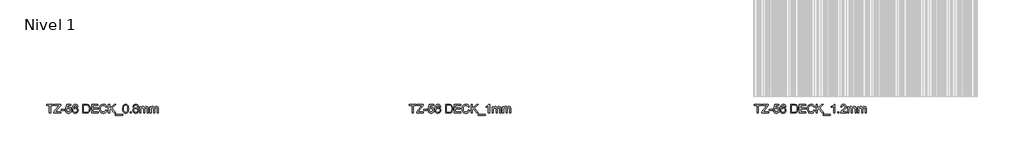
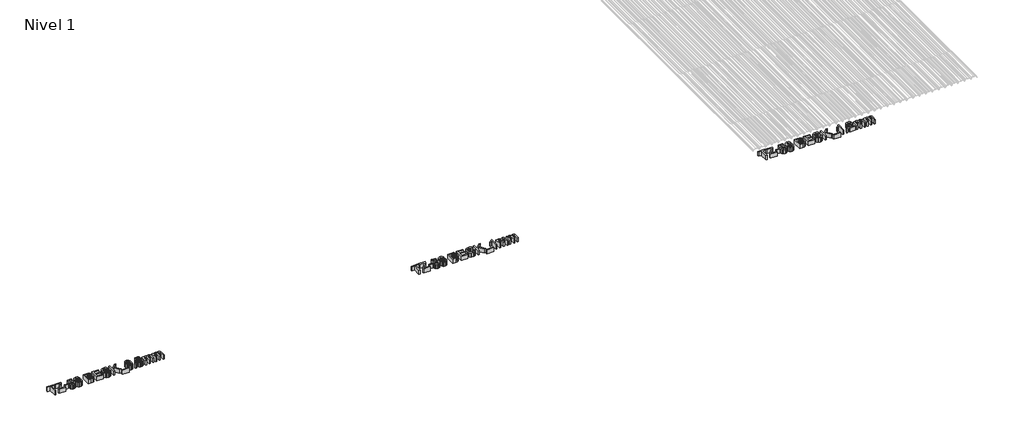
# One storey, part 2 of 2: 3 proxies.
"""IFC4 building model written with IfcOpenShell, lengths in millimetres."""

from ifc_helpers import new_model, si_unit, origin, origin_with_axes, place, context, project, spatial, polyline, outline, extrude, element, save

model = new_model("IFC4")

# Units and contexts
model_context = context("Model", 3, world=origin())
ifc_project = project(units=[si_unit("LENGTHUNIT", "METRE", prefix="MILLI")], contexts=[model_context])

# Site, building, storey
site = spatial("IfcSite", under=ifc_project)
building = spatial("IfcBuilding", under=site)
storey = spatial("IfcBuildingStorey", under=building, Name="Nivel 1", Elevation=0.0)

# Proxies
placement = place(None, origin())
element("IfcBuildingElementProxy", 1, Name="Texto de modelo 1", ObjectType="Texto de modelo 1", at=placement, inside=storey, context=model_context, shape_type="SweptSolid", body=[
    extrude(outline(polyline([(395.0481544, -37789.0115797), (395.0481544, -37525.3137656), (296.1614741, -37525.3137656), (296.1614741, -37487.6426493), (531.605951, -37487.6426493), (531.605951, -37525.3137656), (432.7192707, -37525.3137656), (432.7192707, -37789.0115797), (395.0481544, -37789.0115797)])), origin_with_axes(), (0.0, 0.0, 1.0), 150.0),
    extrude(outline(polyline([(550.4415092, -37789.0115797), (550.4415092, -37749.9425118), (704.5840652, -37561.2190483), (733.867472, -37525.3137656), (569.2770674, -37525.3137656), (569.2770674, -37487.6426493), (781.1770966, -37487.6426493), (781.1770966, -37525.3137656), (612.4664136, -37731.8427177), (596.5739114, -37751.3404634), (785.8859861, -37751.3404634), (785.8859861, -37789.0115797), (550.4415092, -37789.0115797)])), origin_with_axes(), (0.0, 0.0, 1.0), 150.0),
    extrude(outline(polyline([(804.7215443, -37699.5426785), (804.7215443, -37661.8715622), (922.4437827, -37661.8715622), (922.4437827, -37699.5426785), (804.7215443, -37699.5426785)])), origin_with_axes(), (0.0, 0.0, 1.0), 150.0),
    extrude(outline(polyline([(955.4060095, -37708.9604576), (993.0771258, -37704.251568), (999.9933073, -37726.8671137), (1012.0598367, -37743.0631185), (1029.2215318, -37752.8027944), (1051.4232102, -37756.049353), (1078.4257487, -37751.5336015), (1098.6592584, -37737.986347), (1111.2960049, -37716.971088), (1115.5082538, -37690.051323), (1111.5627194, -37664.7042536), (1099.7261162, -37645.3168724), (1079.9064737, -37633.0112197), (1052.0118214, -37628.9093354), (1033.7372833, -37630.5464103), (1018.9392301, -37635.4576349), (997.7860153, -37652.4537831), (960.114899, -37647.7448936), (993.0771258, -37492.3515388), (1139.0527015, -37492.3515388), (1139.0527015, -37530.0226551), (1023.537755, -37530.0226551), (1007.4245236, -37613.0168332), (1034.3350916, -37596.6828727), (1062.5332465, -37591.2382191), (1080.8790617, -37592.9258778), (1097.7303564, -37597.9888537), (1113.0871304, -37606.427147), (1126.9493838, -37618.2407576), (1138.4250028, -37632.707717), (1146.6218735, -37649.106057), (1151.539996, -37667.4357774), (1153.1793701, -37687.6968783), (1147.2748641, -37725.3679946), (1139.8942315, -37742.1618076), (1129.561346, -37757.5944573), (1113.9079671, -37773.3995876), (1095.6426261, -37784.6889663), (1074.7653228, -37791.4625935), (1051.2760574, -37793.7204693), (1014.2763258, -37787.9171308), (998.597655, -37780.6629577), (984.7997809, -37770.5071154), (973.3195634, -37757.9554416), (964.5938623, -37743.513774), (955.4060095, -37708.9604576)])), origin_with_axes(), (0.0, 0.0, 1.0), 150.0),
    extrude(outline(polyline([(1379.2060679, -37567.6937714), (1341.5349516, -37572.402661), (1335.4648987, -37553.7326497), (1327.2611302, -37540.9855386), (1310.1730115, -37529.2317088), (1289.5164375, -37525.3137656), (1272.0052545, -37527.594634), (1255.5241412, -37534.4372391), (1241.3698814, -37548.8490162), (1229.8091897, -37568.6870528), (1222.0008943, -37596.747252), (1219.1038236, -37635.8255169), (1234.2145766, -37618.1947723), (1252.3235678, -37605.7695579), (1272.4191218, -37598.402721), (1293.4895631, -37595.9471087), (1311.5893572, -37597.6255703), (1328.2911998, -37602.6609551), (1343.5950908, -37611.0532631), (1357.5010302, -37622.8024943), (1369.0571234, -37637.2096729), (1377.3114757, -37653.5758232), (1382.264087, -37671.9009451), (1383.9149575, -37692.1850386), (1380.8063546, -37719.1599859), (1371.480546, -37744.1667645), (1356.7100839, -37765.3751615), (1337.2675205, -37780.954964), (1314.0357725, -37790.529093), (1287.8977567, -37793.7204693), (1265.4408602, -37791.6051478), (1245.1590659, -37785.2591834), (1227.052374, -37774.682576), (1211.1207843, -37759.8753257), (1198.1322506, -37740.2120331), (1188.8547266, -37715.0672987), (1183.2882121, -37684.4411226), (1181.4327073, -37648.3335048), (1183.4928465, -37607.8526897), (1189.673264, -37573.3039719), (1199.9739599, -37544.6873512), (1214.3949341, -37522.0028276), (1230.0253204, -37506.9702496), (1248.1481072, -37496.2326939), (1268.7632945, -37489.7901604), (1291.8708823, -37487.6426493), (1324.9250795, -37492.9585441), (1351.3941891, -37508.9062286), (1369.9354417, -37534.234904), (1379.2060679, -37567.6937714)]), holes=[polyline([(1219.1038236, -37691.5964274), (1221.2835245, -37708.2890729), (1227.8226269, -37724.2275604), (1237.97617, -37737.9311647), (1250.9991926, -37747.9191609), (1266.7169509, -37754.0168049), (1284.9547008, -37756.049353), (1309.8143266, -37751.8371041), (1329.3580576, -37739.2003576), (1342.0223953, -37719.3347298), (1346.2438412, -37693.4358374), (1342.0775776, -37668.5762116), (1329.5787868, -37649.6210918), (1309.703962, -37637.6189417), (1283.4095964, -37633.618225), (1258.5867588, -37637.6189417), (1237.8290172, -37649.6210918), (1223.785122, -37668.1163591), (1219.1038236, -37691.5964274)])]), origin_with_axes(), (0.0, 0.0, 1.0), 150.0),
    extrude(outline(polyline([(1548.7260913, -37789.0115797), (1548.7260913, -37487.6426493), (1652.6895432, -37487.6426493), (1706.4738908, -37491.9836568), (1730.4965851, -37500.3529722), (1750.7668831, -37513.5415417), (1771.6073981, -37536.4973782), (1786.4514366, -37565.0450211), (1795.3357868, -37598.6326472), (1798.2972368, -37636.7084337), (1796.29228, -37669.0544582), (1790.2774093, -37697.5193275), (1781.1171477, -37721.753554), (1769.6760176, -37741.4076496), (1756.5058422, -37756.9230727), (1742.1584444, -37768.7412818), (1725.686528, -37777.5060703), (1706.142797, -37783.8612318), (1657.6927383, -37789.0115797), (1548.7260913, -37789.0115797)]), holes=[polyline([(1586.3972076, -37751.3404634), (1653.0574251, -37751.3404634), (1680.6301807, -37749.9793), (1701.5442721, -37745.8958099), (1717.3264097, -37739.3291163), (1729.5033037, -37730.5183425), (1742.5907057, -37714.2119731), (1752.422352, -37693.1047436), (1758.5751784, -37667.1046836), (1760.6261205, -37636.1198225), (1756.6070097, -37595.0641919), (1744.5496773, -37564.7507155), (1726.7349917, -37543.9285945), (1705.4438213, -37531.3470303), (1683.7755717, -37526.8220818), (1652.0273556, -37525.3137656), (1586.3972076, -37525.3137656), (1586.3972076, -37751.3404634)])]), origin_with_axes(), (0.0, 0.0, 1.0), 150.0),
    extrude(outline(polyline([(1850.0950218, -37789.0115797), (1850.0950218, -37487.6426493), (2066.7039405, -37487.6426493), (2066.7039405, -37525.3137656), (1887.7661381, -37525.3137656), (1887.7661381, -37614.7826668), (2057.2861614, -37614.7826668), (2057.2861614, -37652.4537831), (1887.7661381, -37652.4537831), (1887.7661381, -37751.3404634), (2071.4128301, -37751.3404634), (2071.4128301, -37789.0115797), (1850.0950218, -37789.0115797)])), origin_with_axes(), (0.0, 0.0, 1.0), 150.0),
    extrude(outline(polyline([(2339.8195337, -37681.8843427), (2377.49065, -37691.5964274), (2370.0364411, -37715.0236127), (2360.1082258, -37735.4939465), (2347.706004, -37753.0074287), (2332.8297758, -37767.5640594), (2315.8152336, -37779.0074887), (2296.9980695, -37787.1813668), (2276.3782837, -37792.0856937), (2253.9558761, -37793.7204693), (2210.2606921, -37788.7724564), (2175.5602229, -37773.9284179), (2148.9623546, -37749.7033885), (2129.5749735, -37716.6124031), (2117.7383703, -37677.7088821), (2113.7928359, -37636.0462461), (2118.2534051, -37592.1027418), (2131.6351127, -37554.155714), (2153.2389828, -37523.4099763), (2182.3660398, -37501.0703421), (2216.9101592, -37487.4679053), (2254.7652165, -37482.9337597), (2296.0691675, -37488.8014776), (2314.0379037, -37496.1361248), (2330.2178137, -37506.404631), (2344.342183, -37519.3356832), (2356.1442973, -37534.6579683), (2372.7817605, -37572.4762374), (2335.1106442, -37581.4525581), (2322.0508334, -37553.9809701), (2304.2085566, -37535.1362149), (2281.3630847, -37524.2377108), (2253.2936885, -37520.6048761), (2220.938467, -37524.6331839), (2194.3589928, -37536.7181074), (2174.1898625, -37555.5904538), (2161.0656723, -37579.9810301), (2153.8643822, -37607.5537856), (2151.4639522, -37635.9726697), (2154.3058406, -37670.7743065), (2162.8315059, -37700.8670537), (2177.3628447, -37725.1012801), (2198.2217538, -37742.3273545), (2223.2285324, -37752.6188534), (2250.2034797, -37756.049353), (2281.6481933, -37751.3772516), (2307.8505884, -37737.3609476), (2327.6334427, -37714.1475937), (2339.8195337, -37681.8843427)])), origin_with_axes(), (0.0, 0.0, 1.0), 150.0),
    extrude(outline(polyline([(2429.288435, -37789.0115797), (2429.288435, -37487.6426493), (2466.9595513, -37487.6426493), (2466.9595513, -37635.1633294), (2621.4699892, -37487.6426493), (2674.150691, -37487.6426493), (2544.4354995, -37611.5453053), (2678.8595805, -37789.0115797), (2632.8007547, -37789.0115797), (2517.7272666, -37637.0027393), (2466.9595513, -37685.4160099), (2466.9595513, -37789.0115797), (2429.288435, -37789.0115797)])), origin_with_axes(), (0.0, 0.0, 1.0), 150.0),
    extrude(outline(polyline([(2669.4418014, -37873.7715914), (2669.4418014, -37836.1004751), (2914.3040574, -37836.1004751), (2914.3040574, -37873.7715914), (2669.4418014, -37873.7715914)])), origin_with_axes(), (0.0, 0.0, 1.0), 150.0),
    extrude(outline(polyline([(2923.7218365, -37640.7551357), (2926.4901485, -37592.5166091), (2934.7950845, -37554.0453494), (2948.5538712, -37524.7527455), (2967.6837349, -37504.0501863), (2992.3226315, -37491.7445335), (3022.6085168, -37487.6426493), (3045.8218707, -37490.0706705), (3066.6072034, -37497.354734), (3083.9896277, -37509.2097313), (3096.9942562, -37525.3505538), (3106.8167055, -37545.6392458), (3114.652592, -37569.9378516), (3119.7845458, -37600.793954), (3121.4951971, -37640.7551357), (3118.7544762, -37688.7177508), (3110.5323136, -37727.0970399), (3096.8563005, -37756.417235), (3077.7540279, -37777.2025677), (3053.0599489, -37789.5909939), (3022.6085168, -37793.7204693), (3001.8599723, -37791.9270445), (2983.4658725, -37786.5467704), (2967.4262175, -37777.5796467), (2953.7410073, -37765.0256736), (2940.6076201, -37742.3319531), (2931.2266292, -37714.0556232), (2925.5980347, -37680.1966841), (2923.7218365, -37640.7551357)]), holes=[polyline([(2961.3929528, -37640.6815593), (2965.8075367, -37699.9381517), (2971.3257667, -37720.2061503), (2979.0512886, -37734.2339507), (2998.7697635, -37750.5955024), (3022.6085168, -37756.049353), (3046.4472701, -37750.5771083), (3066.165745, -37734.1603743), (3073.8912669, -37720.1095813), (3079.4094968, -37699.8461812), (3083.8240808, -37640.6815593), (3079.5566496, -37582.7585391), (3074.2223607, -37562.5572191), (3066.7543562, -37548.1960257), (3047.0726695, -37531.0343306), (3022.1670584, -37525.3137656), (2998.5858225, -37530.3537489), (2979.6398998, -37545.4736989), (2971.6568605, -37561.1086837), (2965.9546895, -37582.188322), (2961.3929528, -37640.6815593)])]), origin_with_axes(), (0.0, 0.0, 1.0), 150.0),
    extrude(outline(polyline([(3173.292982, -37789.0115797), (3173.292982, -37751.3404634), (3210.9640983, -37751.3404634), (3210.9640983, -37789.0115797), (3173.292982, -37789.0115797)])), origin_with_axes(), (0.0, 0.0, 1.0), 150.0),
    extrude(outline(polyline([(3327.067656, -37623.0232235), (3306.8985256, -37613.0904096), (3292.7442658, -37599.6259286), (3284.3841475, -37582.9056919), (3281.5974414, -37563.2056111), (3283.1149546, -37547.8419393), (3287.6674943, -37533.7566574), (3295.2550605, -37520.9497654), (3305.8776531, -37509.4212634), (3319.0248359, -37499.8931197), (3334.1861726, -37493.0873028), (3370.5513078, -37487.6426493), (3407.1371722, -37493.2160615), (3422.4640559, -37500.1828268), (3435.8135738, -37509.9362982), (3446.6293044, -37521.6901279), (3454.3548263, -37534.6579683), (3458.9901395, -37548.8398192), (3460.5352438, -37564.2356807), (3457.7853259, -37583.3011651), (3449.5355722, -37599.7362932), (3435.6940121, -37613.1180008), (3416.1686752, -37623.0232235), (3439.354438, -37634.9701913), (3456.2310245, -37652.5641477), (3466.5225233, -37674.9589642), (3469.9530229, -37701.3085121), (3468.2515687, -37720.098085), (3463.147206, -37737.3241594), (3454.6399349, -37752.9867354), (3442.7297553, -37767.0858128), (3428.0420666, -37778.738475), (3411.2022683, -37787.0618052), (3392.2103603, -37792.0558032), (3371.0663426, -37793.7204693), (3349.9223249, -37792.0489055), (3330.9304169, -37787.034214), (3314.0906186, -37778.6763949), (3299.40293, -37766.9754482), (3287.4927504, -37752.7775025), (3278.9854792, -37736.9286863), (3273.8811165, -37719.4289996), (3272.1796623, -37700.2784425), (3275.7481177, -37672.9080221), (3286.4534837, -37650.393644), (3303.7439375, -37633.5078604), (3327.067656, -37623.0232235)]), holes=[polyline([(3319.2685577, -37564.3092571), (3322.6070868, -37580.7535823), (3332.6226741, -37593.8869695), (3349.0210141, -37602.4954082), (3371.507801, -37605.3648877), (3393.4703561, -37602.5138023), (3409.6203757, -37593.9605459), (3419.5531896, -37581.2686171), (3422.8641275, -37566.0015143), (3419.442825, -37550.1549973), (3409.1789173, -37537.0492012), (3392.8081685, -37528.2476245), (3371.0663426, -37525.3137656), (3349.186561, -37528.1832452), (3332.8434033, -37536.7916838), (3322.6622691, -37549.4100363), (3319.2685577, -37564.3092571)]), polyline([(3309.8507786, -37698.9540673), (3316.1415607, -37727.3177691), (3324.851167, -37739.4854661), (3338.3984214, -37748.5445603), (3354.6220174, -37754.1731548), (3371.3606482, -37756.049353), (3397.0020233, -37752.1038186), (3416.2422516, -37740.2672154), (3428.2719929, -37722.3421652), (3432.2819066, -37700.1312897), (3428.1432342, -37677.5433352), (3415.7272168, -37659.2228118), (3396.0455301, -37647.082706), (3370.1098494, -37643.036004), (3344.8271593, -37647.0275237), (3325.780069, -37659.0020826), (3313.8331012, -37676.9731181), (3309.8507786, -37698.9540673)])]), origin_with_axes(), (0.0, 0.0, 1.0), 150.0),
    extrude(outline(polyline([(3512.3330288, -37789.0115797), (3512.3330288, -37567.6937714), (3550.0041451, -37567.6937714), (3550.0041451, -37604.114089), (3561.3349105, -37587.3846552), (3575.9030375, -37574.2788591), (3593.2118854, -37565.8083762), (3612.7648135, -37562.9848819), (3633.7156931, -37565.8635585), (3650.5095062, -37574.4995883), (3663.0542822, -37588.3227543), (3671.2580507, -37606.7628393), (3684.9892462, -37587.6099829), (3700.6518221, -37573.9293713), (3718.2457785, -37565.7210042), (3737.7711154, -37562.9848819), (3766.088832, -37567.5374216), (3787.0305146, -37581.1950407), (3799.9707637, -37604.3256211), (3804.2841801, -37637.2970449), (3804.2841801, -37789.0115797), (3766.6130638, -37789.0115797), (3766.6130638, -37653.4838527), (3763.1181849, -37622.0299421), (3758.2069602, -37613.3571241), (3750.4630442, -37606.5421101), (3740.5026392, -37602.1275262), (3728.9419475, -37600.6559982), (3708.5336938, -37604.4267887), (3691.8962306, -37615.73916), (3680.8321796, -37635.3656644), (3677.1441626, -37664.0788542), (3677.1441626, -37789.0115797), (3639.4730463, -37789.0115797), (3639.4730463, -37649.289998), (3637.2933455, -37627.9896304), (3630.754243, -37612.796104), (3619.2487336, -37603.6910247), (3602.169812, -37600.6559982), (3587.6568673, -37602.6793492), (3574.2843568, -37608.7494021), (3563.2478969, -37618.7190042), (3555.7431042, -37632.4410026), (3551.4388849, -37651.4788958), (3550.0041451, -37677.3961824), (3550.0041451, -37789.0115797), (3512.3330288, -37789.0115797)])), origin_with_axes(), (0.0, 0.0, 1.0), 150.0),
    extrude(outline(polyline([(3860.7908546, -37789.0115797), (3860.7908546, -37567.6937714), (3898.4619709, -37567.6937714), (3898.4619709, -37604.114089), (3909.7927364, -37587.3846552), (3924.3608634, -37574.2788591), (3941.6697112, -37565.8083762), (3961.2226393, -37562.9848819), (3982.1735189, -37565.8635585), (3998.967332, -37574.4995883), (4011.512108, -37588.3227543), (4019.7158765, -37606.7628393), (4033.447072, -37587.6099829), (4049.1096479, -37573.9293713), (4066.7036044, -37565.7210042), (4086.2289412, -37562.9848819), (4114.5466578, -37567.5374216), (4135.4883404, -37581.1950407), (4148.4285896, -37604.3256211), (4152.742006, -37637.2970449), (4152.742006, -37789.0115797), (4115.0708897, -37789.0115797), (4115.0708897, -37653.4838527), (4111.5760107, -37622.0299421), (4106.6647861, -37613.3571241), (4098.9208701, -37606.5421101), (4088.9604651, -37602.1275262), (4077.3997734, -37600.6559982), (4056.9915197, -37604.4267887), (4040.3540564, -37615.73916), (4029.2900054, -37635.3656644), (4025.6019884, -37664.0788542), (4025.6019884, -37789.0115797), (3987.9308721, -37789.0115797), (3987.9308721, -37649.289998), (3985.7511713, -37627.9896304), (3979.2120688, -37612.796104), (3967.7065594, -37603.6910247), (3950.6276378, -37600.6559982), (3936.1146931, -37602.6793492), (3922.7421826, -37608.7494021), (3911.7057227, -37618.7190042), (3904.20093, -37632.4410026), (3899.8967107, -37651.4788958), (3898.4619709, -37677.3961824), (3898.4619709, -37789.0115797), (3860.7908546, -37789.0115797)])), origin_with_axes(), (0.0, 0.0, 1.0), 150.0),
])
element("IfcBuildingElementProxy", 2, Name="Texto de modelo 1", ObjectType="Texto de modelo 1", at=placement, inside=storey, context=model_context, shape_type="SweptSolid", body=[
    extrude(outline(polyline([(12895.0481544, -37789.0115797), (12895.0481544, -37525.3137656), (12796.1614741, -37525.3137656), (12796.1614741, -37487.6426493), (13031.605951, -37487.6426493), (13031.605951, -37525.3137656), (12932.7192707, -37525.3137656), (12932.7192707, -37789.0115797), (12895.0481544, -37789.0115797)])), origin_with_axes(), (0.0, 0.0, 1.0), 150.0),
    extrude(outline(polyline([(13050.4415092, -37789.0115797), (13050.4415092, -37749.9425118), (13204.5840652, -37561.2190483), (13233.867472, -37525.3137656), (13069.2770674, -37525.3137656), (13069.2770674, -37487.6426493), (13281.1770966, -37487.6426493), (13281.1770966, -37525.3137656), (13112.4664136, -37731.8427177), (13096.5739114, -37751.3404634), (13285.8859861, -37751.3404634), (13285.8859861, -37789.0115797), (13050.4415092, -37789.0115797)])), origin_with_axes(), (0.0, 0.0, 1.0), 150.0),
    extrude(outline(polyline([(13304.7215443, -37699.5426785), (13304.7215443, -37661.8715622), (13422.4437827, -37661.8715622), (13422.4437827, -37699.5426785), (13304.7215443, -37699.5426785)])), origin_with_axes(), (0.0, 0.0, 1.0), 150.0),
    extrude(outline(polyline([(13455.4060095, -37708.9604576), (13493.0771258, -37704.251568), (13499.9933073, -37726.8671137), (13512.0598367, -37743.0631185), (13529.2215318, -37752.8027944), (13551.4232102, -37756.049353), (13578.4257487, -37751.5336015), (13598.6592584, -37737.986347), (13611.2960049, -37716.971088), (13615.5082538, -37690.051323), (13611.5627194, -37664.7042536), (13599.7261162, -37645.3168724), (13579.9064737, -37633.0112197), (13552.0118214, -37628.9093354), (13533.7372833, -37630.5464103), (13518.9392301, -37635.4576349), (13497.7860153, -37652.4537831), (13460.114899, -37647.7448936), (13493.0771258, -37492.3515388), (13639.0527015, -37492.3515388), (13639.0527015, -37530.0226551), (13523.537755, -37530.0226551), (13507.4245236, -37613.0168332), (13534.3350916, -37596.6828727), (13562.5332465, -37591.2382191), (13580.8790617, -37592.9258778), (13597.7303564, -37597.9888537), (13613.0871304, -37606.427147), (13626.9493838, -37618.2407576), (13638.4250028, -37632.707717), (13646.6218735, -37649.106057), (13651.539996, -37667.4357774), (13653.1793701, -37687.6968783), (13647.2748641, -37725.3679946), (13639.8942315, -37742.1618076), (13629.561346, -37757.5944573), (13613.9079671, -37773.3995876), (13595.6426261, -37784.6889663), (13574.7653228, -37791.4625935), (13551.2760574, -37793.7204693), (13514.2763258, -37787.9171308), (13498.597655, -37780.6629577), (13484.7997809, -37770.5071154), (13473.3195634, -37757.9554416), (13464.5938623, -37743.513774), (13455.4060095, -37708.9604576)])), origin_with_axes(), (0.0, 0.0, 1.0), 150.0),
    extrude(outline(polyline([(13879.2060679, -37567.6937714), (13841.5349516, -37572.402661), (13835.4648987, -37553.7326497), (13827.2611302, -37540.9855386), (13810.1730115, -37529.2317088), (13789.5164375, -37525.3137656), (13772.0052545, -37527.594634), (13755.5241412, -37534.4372391), (13741.3698814, -37548.8490162), (13729.8091897, -37568.6870528), (13722.0008943, -37596.747252), (13719.1038236, -37635.8255169), (13734.2145766, -37618.1947723), (13752.3235678, -37605.7695579), (13772.4191218, -37598.402721), (13793.4895631, -37595.9471087), (13811.5893572, -37597.6255703), (13828.2911998, -37602.6609551), (13843.5950908, -37611.0532631), (13857.5010302, -37622.8024943), (13869.0571234, -37637.2096729), (13877.3114757, -37653.5758232), (13882.264087, -37671.9009451), (13883.9149575, -37692.1850386), (13880.8063546, -37719.1599859), (13871.480546, -37744.1667645), (13856.7100839, -37765.3751615), (13837.2675205, -37780.954964), (13814.0357725, -37790.529093), (13787.8977567, -37793.7204693), (13765.4408602, -37791.6051478), (13745.1590659, -37785.2591834), (13727.052374, -37774.682576), (13711.1207843, -37759.8753257), (13698.1322506, -37740.2120331), (13688.8547266, -37715.0672987), (13683.2882121, -37684.4411226), (13681.4327073, -37648.3335048), (13683.4928465, -37607.8526897), (13689.673264, -37573.3039719), (13699.9739599, -37544.6873512), (13714.3949341, -37522.0028276), (13730.0253204, -37506.9702496), (13748.1481072, -37496.2326939), (13768.7632945, -37489.7901604), (13791.8708823, -37487.6426493), (13824.9250795, -37492.9585441), (13851.3941891, -37508.9062286), (13869.9354417, -37534.234904), (13879.2060679, -37567.6937714)]), holes=[polyline([(13719.1038236, -37691.5964274), (13721.2835245, -37708.2890729), (13727.8226269, -37724.2275604), (13737.97617, -37737.9311647), (13750.9991926, -37747.9191609), (13766.7169509, -37754.0168049), (13784.9547008, -37756.049353), (13809.8143266, -37751.8371041), (13829.3580576, -37739.2003576), (13842.0223953, -37719.3347298), (13846.2438412, -37693.4358374), (13842.0775776, -37668.5762116), (13829.5787868, -37649.6210918), (13809.703962, -37637.6189417), (13783.4095964, -37633.618225), (13758.5867588, -37637.6189417), (13737.8290172, -37649.6210918), (13723.785122, -37668.1163591), (13719.1038236, -37691.5964274)])]), origin_with_axes(), (0.0, 0.0, 1.0), 150.0),
    extrude(outline(polyline([(14048.7260913, -37789.0115797), (14048.7260913, -37487.6426493), (14152.6895432, -37487.6426493), (14206.4738908, -37491.9836568), (14230.4965851, -37500.3529722), (14250.7668831, -37513.5415417), (14271.6073981, -37536.4973782), (14286.4514366, -37565.0450211), (14295.3357868, -37598.6326472), (14298.2972368, -37636.7084337), (14296.29228, -37669.0544582), (14290.2774093, -37697.5193275), (14281.1171477, -37721.753554), (14269.6760176, -37741.4076496), (14256.5058422, -37756.9230727), (14242.1584444, -37768.7412818), (14225.686528, -37777.5060703), (14206.142797, -37783.8612318), (14157.6927383, -37789.0115797), (14048.7260913, -37789.0115797)]), holes=[polyline([(14086.3972076, -37751.3404634), (14153.0574251, -37751.3404634), (14180.6301807, -37749.9793), (14201.5442721, -37745.8958099), (14217.3264097, -37739.3291163), (14229.5033037, -37730.5183425), (14242.5907057, -37714.2119731), (14252.422352, -37693.1047436), (14258.5751784, -37667.1046836), (14260.6261205, -37636.1198225), (14256.6070097, -37595.0641919), (14244.5496773, -37564.7507155), (14226.7349917, -37543.9285945), (14205.4438213, -37531.3470303), (14183.7755717, -37526.8220818), (14152.0273556, -37525.3137656), (14086.3972076, -37525.3137656), (14086.3972076, -37751.3404634)])]), origin_with_axes(), (0.0, 0.0, 1.0), 150.0),
    extrude(outline(polyline([(14350.0950218, -37789.0115797), (14350.0950218, -37487.6426493), (14566.7039405, -37487.6426493), (14566.7039405, -37525.3137656), (14387.7661381, -37525.3137656), (14387.7661381, -37614.7826668), (14557.2861614, -37614.7826668), (14557.2861614, -37652.4537831), (14387.7661381, -37652.4537831), (14387.7661381, -37751.3404634), (14571.4128301, -37751.3404634), (14571.4128301, -37789.0115797), (14350.0950218, -37789.0115797)])), origin_with_axes(), (0.0, 0.0, 1.0), 150.0),
    extrude(outline(polyline([(14839.8195337, -37681.8843427), (14877.49065, -37691.5964274), (14870.0364411, -37715.0236127), (14860.1082258, -37735.4939465), (14847.706004, -37753.0074287), (14832.8297758, -37767.5640594), (14815.8152336, -37779.0074887), (14796.9980695, -37787.1813668), (14776.3782837, -37792.0856937), (14753.9558761, -37793.7204693), (14710.2606921, -37788.7724564), (14675.5602229, -37773.9284179), (14648.9623546, -37749.7033885), (14629.5749735, -37716.6124031), (14617.7383703, -37677.7088821), (14613.7928359, -37636.0462461), (14618.2534051, -37592.1027418), (14631.6351127, -37554.155714), (14653.2389828, -37523.4099763), (14682.3660398, -37501.0703421), (14716.9101592, -37487.4679053), (14754.7652165, -37482.9337597), (14796.0691675, -37488.8014776), (14814.0379037, -37496.1361248), (14830.2178137, -37506.404631), (14844.342183, -37519.3356832), (14856.1442973, -37534.6579683), (14872.7817605, -37572.4762374), (14835.1106442, -37581.4525581), (14822.0508334, -37553.9809701), (14804.2085566, -37535.1362149), (14781.3630847, -37524.2377108), (14753.2936885, -37520.6048761), (14720.938467, -37524.6331839), (14694.3589928, -37536.7181074), (14674.1898625, -37555.5904538), (14661.0656723, -37579.9810301), (14653.8643822, -37607.5537856), (14651.4639522, -37635.9726697), (14654.3058406, -37670.7743065), (14662.8315059, -37700.8670537), (14677.3628447, -37725.1012801), (14698.2217538, -37742.3273545), (14723.2285324, -37752.6188534), (14750.2034797, -37756.049353), (14781.6481933, -37751.3772516), (14807.8505884, -37737.3609476), (14827.6334427, -37714.1475937), (14839.8195337, -37681.8843427)])), origin_with_axes(), (0.0, 0.0, 1.0), 150.0),
    extrude(outline(polyline([(14929.288435, -37789.0115797), (14929.288435, -37487.6426493), (14966.9595513, -37487.6426493), (14966.9595513, -37635.1633294), (15121.4699892, -37487.6426493), (15174.150691, -37487.6426493), (15044.4354995, -37611.5453053), (15178.8595805, -37789.0115797), (15132.8007547, -37789.0115797), (15017.7272666, -37637.0027393), (14966.9595513, -37685.4160099), (14966.9595513, -37789.0115797), (14929.288435, -37789.0115797)])), origin_with_axes(), (0.0, 0.0, 1.0), 150.0),
    extrude(outline(polyline([(15169.4418014, -37873.7715914), (15169.4418014, -37836.1004751), (15414.3040574, -37836.1004751), (15414.3040574, -37873.7715914), (15169.4418014, -37873.7715914)])), origin_with_axes(), (0.0, 0.0, 1.0), 150.0),
    extrude(outline(polyline([(15564.9885226, -37789.0115797), (15527.3174063, -37789.0115797), (15527.3174063, -37554.155714), (15491.6328528, -37579.5763599), (15451.9751737, -37598.595859), (15451.9751737, -37562.9848819), (15481.5620832, -37546.8900446), (15507.1942612, -37527.7417868), (15527.4001798, -37507.3795183), (15540.708311, -37487.6426493), (15564.9885226, -37487.6426493), (15564.9885226, -37789.0115797)])), origin_with_axes(), (0.0, 0.0, 1.0), 150.0),
    extrude(outline(polyline([(15663.8752029, -37789.0115797), (15663.8752029, -37567.6937714), (15701.5463192, -37567.6937714), (15701.5463192, -37604.114089), (15712.8770847, -37587.3846552), (15727.4452117, -37574.2788591), (15744.7540596, -37565.8083762), (15764.3069876, -37562.9848819), (15785.2578672, -37565.8635585), (15802.0516803, -37574.4995883), (15814.5964564, -37588.3227543), (15822.8002249, -37606.7628393), (15836.5314203, -37587.609983), (15852.1939963, -37573.9293713), (15869.7879527, -37565.7210042), (15889.3132896, -37562.9848819), (15917.6310062, -37567.5374216), (15938.5726887, -37581.1950407), (15951.5129379, -37604.3256211), (15955.8263543, -37637.2970449), (15955.8263543, -37789.0115797), (15918.155238, -37789.0115797), (15918.155238, -37653.4838527), (15914.660359, -37622.0299421), (15909.7491344, -37613.3571241), (15902.0052184, -37606.5421101), (15892.0448134, -37602.1275262), (15880.4841217, -37600.6559982), (15860.075868, -37604.4267887), (15843.4384048, -37615.73916), (15832.3743538, -37635.3656644), (15828.6863368, -37664.0788542), (15828.6863368, -37789.0115797), (15791.0152205, -37789.0115797), (15791.0152205, -37649.289998), (15788.8355196, -37627.9896304), (15782.2964172, -37612.796104), (15770.7909078, -37603.6910247), (15753.7119862, -37600.6559982), (15739.1990414, -37602.6793492), (15725.8265309, -37608.7494021), (15714.7900711, -37618.7190042), (15707.2852784, -37632.4410026), (15702.981059, -37651.4788958), (15701.5463192, -37677.3961824), (15701.5463192, -37789.0115797), (15663.8752029, -37789.0115797)])), origin_with_axes(), (0.0, 0.0, 1.0), 150.0),
    extrude(outline(polyline([(16012.3330288, -37789.0115797), (16012.3330288, -37567.6937714), (16050.0041451, -37567.6937714), (16050.0041451, -37604.114089), (16061.3349105, -37587.3846552), (16075.9030375, -37574.2788591), (16093.2118854, -37565.8083762), (16112.7648135, -37562.9848819), (16133.7156931, -37565.8635585), (16150.5095062, -37574.4995883), (16163.0542822, -37588.3227543), (16171.2580507, -37606.7628393), (16184.9892462, -37587.609983), (16200.6518221, -37573.9293713), (16218.2457785, -37565.7210042), (16237.7711154, -37562.9848819), (16266.088832, -37567.5374216), (16287.0305146, -37581.1950407), (16299.9707637, -37604.3256211), (16304.2841801, -37637.2970449), (16304.2841801, -37789.0115797), (16266.6130638, -37789.0115797), (16266.6130638, -37653.4838527), (16263.1181849, -37622.0299421), (16258.2069602, -37613.3571241), (16250.4630442, -37606.5421101), (16240.5026392, -37602.1275262), (16228.9419475, -37600.6559982), (16208.5336938, -37604.4267887), (16191.8962306, -37615.73916), (16180.8321796, -37635.3656644), (16177.1441626, -37664.0788542), (16177.1441626, -37789.0115797), (16139.4730463, -37789.0115797), (16139.4730463, -37649.289998), (16137.2933455, -37627.9896304), (16130.754243, -37612.796104), (16119.2487336, -37603.6910247), (16102.169812, -37600.6559982), (16087.6568673, -37602.6793492), (16074.2843568, -37608.7494021), (16063.2478969, -37618.7190042), (16055.7431042, -37632.4410026), (16051.4388849, -37651.4788958), (16050.0041451, -37677.3961824), (16050.0041451, -37789.0115797), (16012.3330288, -37789.0115797)])), origin_with_axes(), (0.0, 0.0, 1.0), 150.0),
])
element("IfcBuildingElementProxy", 3, Name="Texto de modelo 1", ObjectType="Texto de modelo 1", at=placement, inside=storey, context=model_context, shape_type="SweptSolid", body=[
    extrude(outline(polyline([(24795.0481544, -37789.0115797), (24795.0481544, -37525.3137656), (24696.1614741, -37525.3137656), (24696.1614741, -37487.6426493), (24931.605951, -37487.6426493), (24931.605951, -37525.3137656), (24832.7192707, -37525.3137656), (24832.7192707, -37789.0115797), (24795.0481544, -37789.0115797)])), origin_with_axes(), (0.0, 0.0, 1.0), 150.0),
    extrude(outline(polyline([(24950.4415092, -37789.0115797), (24950.4415092, -37749.9425118), (25104.5840652, -37561.2190483), (25133.867472, -37525.3137656), (24969.2770674, -37525.3137656), (24969.2770674, -37487.6426493), (25181.1770966, -37487.6426493), (25181.1770966, -37525.3137656), (25012.4664136, -37731.8427177), (24996.5739114, -37751.3404634), (25185.8859861, -37751.3404634), (25185.8859861, -37789.0115797), (24950.4415092, -37789.0115797)])), origin_with_axes(), (0.0, 0.0, 1.0), 150.0),
    extrude(outline(polyline([(25204.7215443, -37699.5426785), (25204.7215443, -37661.8715622), (25322.4437827, -37661.8715622), (25322.4437827, -37699.5426785), (25204.7215443, -37699.5426785)])), origin_with_axes(), (0.0, 0.0, 1.0), 150.0),
    extrude(outline(polyline([(25355.4060095, -37708.9604576), (25393.0771258, -37704.251568), (25399.9933073, -37726.8671137), (25412.0598367, -37743.0631185), (25429.2215318, -37752.8027944), (25451.4232102, -37756.049353), (25478.4257487, -37751.5336015), (25498.6592584, -37737.986347), (25511.2960049, -37716.971088), (25515.5082538, -37690.051323), (25511.5627194, -37664.7042536), (25499.7261162, -37645.3168724), (25479.9064737, -37633.0112197), (25452.0118214, -37628.9093354), (25433.7372833, -37630.5464103), (25418.9392301, -37635.4576349), (25397.7860153, -37652.4537831), (25360.114899, -37647.7448936), (25393.0771258, -37492.3515388), (25539.0527015, -37492.3515388), (25539.0527015, -37530.0226551), (25423.537755, -37530.0226551), (25407.4245236, -37613.0168332), (25434.3350916, -37596.6828727), (25462.5332465, -37591.2382191), (25480.8790617, -37592.9258778), (25497.7303564, -37597.9888537), (25513.0871304, -37606.427147), (25526.9493838, -37618.2407576), (25538.4250028, -37632.707717), (25546.6218735, -37649.106057), (25551.539996, -37667.4357774), (25553.1793701, -37687.6968783), (25547.2748641, -37725.3679946), (25539.8942315, -37742.1618076), (25529.561346, -37757.5944573), (25513.9079671, -37773.3995876), (25495.6426261, -37784.6889663), (25474.7653228, -37791.4625935), (25451.2760574, -37793.7204693), (25414.2763258, -37787.9171308), (25398.597655, -37780.6629577), (25384.7997809, -37770.5071154), (25373.3195634, -37757.9554416), (25364.5938623, -37743.513774), (25355.4060095, -37708.9604576)])), origin_with_axes(), (0.0, 0.0, 1.0), 150.0),
    extrude(outline(polyline([(25779.2060679, -37567.6937714), (25741.5349516, -37572.402661), (25735.4648987, -37553.7326497), (25727.2611302, -37540.9855386), (25710.1730115, -37529.2317088), (25689.5164375, -37525.3137656), (25672.0052545, -37527.594634), (25655.5241412, -37534.4372391), (25641.3698814, -37548.8490162), (25629.8091897, -37568.6870528), (25622.0008943, -37596.747252), (25619.1038236, -37635.8255169), (25634.2145766, -37618.1947723), (25652.3235678, -37605.7695579), (25672.4191218, -37598.402721), (25693.4895631, -37595.9471087), (25711.5893572, -37597.6255703), (25728.2911998, -37602.6609551), (25743.5950908, -37611.0532631), (25757.5010302, -37622.8024943), (25769.0571234, -37637.2096729), (25777.3114757, -37653.5758232), (25782.264087, -37671.9009451), (25783.9149575, -37692.1850386), (25780.8063546, -37719.1599859), (25771.480546, -37744.1667645), (25756.7100839, -37765.3751615), (25737.2675205, -37780.954964), (25714.0357725, -37790.529093), (25687.8977567, -37793.7204693), (25665.4408602, -37791.6051478), (25645.1590659, -37785.2591834), (25627.052374, -37774.682576), (25611.1207843, -37759.8753257), (25598.1322506, -37740.2120331), (25588.8547266, -37715.0672987), (25583.2882121, -37684.4411226), (25581.4327073, -37648.3335048), (25583.4928465, -37607.8526897), (25589.673264, -37573.3039719), (25599.9739599, -37544.6873512), (25614.3949341, -37522.0028276), (25630.0253204, -37506.9702496), (25648.1481072, -37496.2326939), (25668.7632945, -37489.7901604), (25691.8708823, -37487.6426493), (25724.9250795, -37492.9585441), (25751.3941891, -37508.9062286), (25769.9354417, -37534.234904), (25779.2060679, -37567.6937714)]), holes=[polyline([(25619.1038236, -37691.5964274), (25621.2835245, -37708.2890729), (25627.8226269, -37724.2275604), (25637.97617, -37737.9311647), (25650.9991926, -37747.9191609), (25666.7169509, -37754.0168049), (25684.9547008, -37756.049353), (25709.8143266, -37751.8371041), (25729.3580576, -37739.2003576), (25742.0223953, -37719.3347298), (25746.2438412, -37693.4358374), (25742.0775776, -37668.5762116), (25729.5787868, -37649.6210918), (25709.703962, -37637.6189417), (25683.4095964, -37633.618225), (25658.5867588, -37637.6189417), (25637.8290172, -37649.6210918), (25623.785122, -37668.1163591), (25619.1038236, -37691.5964274)])]), origin_with_axes(), (0.0, 0.0, 1.0), 150.0),
    extrude(outline(polyline([(25948.7260913, -37789.0115797), (25948.7260913, -37487.6426493), (26052.6895432, -37487.6426493), (26106.4738908, -37491.9836568), (26130.4965851, -37500.3529722), (26150.7668831, -37513.5415417), (26171.6073981, -37536.4973782), (26186.4514366, -37565.0450211), (26195.3357868, -37598.6326472), (26198.2972368, -37636.7084337), (26196.29228, -37669.0544582), (26190.2774093, -37697.5193275), (26181.1171477, -37721.753554), (26169.6760176, -37741.4076496), (26156.5058422, -37756.9230727), (26142.1584444, -37768.7412818), (26125.686528, -37777.5060703), (26106.142797, -37783.8612318), (26057.6927383, -37789.0115797), (25948.7260913, -37789.0115797)]), holes=[polyline([(25986.3972076, -37751.3404634), (26053.0574251, -37751.3404634), (26080.6301807, -37749.9793), (26101.5442721, -37745.8958099), (26117.3264097, -37739.3291163), (26129.5033037, -37730.5183425), (26142.5907057, -37714.2119731), (26152.422352, -37693.1047436), (26158.5751784, -37667.1046836), (26160.6261205, -37636.1198225), (26156.6070097, -37595.0641919), (26144.5496773, -37564.7507155), (26126.7349917, -37543.9285945), (26105.4438213, -37531.3470303), (26083.7755717, -37526.8220818), (26052.0273556, -37525.3137656), (25986.3972076, -37525.3137656), (25986.3972076, -37751.3404634)])]), origin_with_axes(), (0.0, 0.0, 1.0), 150.0),
    extrude(outline(polyline([(26250.0950218, -37789.0115797), (26250.0950218, -37487.6426493), (26466.7039405, -37487.6426493), (26466.7039405, -37525.3137656), (26287.7661381, -37525.3137656), (26287.7661381, -37614.7826668), (26457.2861614, -37614.7826668), (26457.2861614, -37652.4537831), (26287.7661381, -37652.4537831), (26287.7661381, -37751.3404634), (26471.4128301, -37751.3404634), (26471.4128301, -37789.0115797), (26250.0950218, -37789.0115797)])), origin_with_axes(), (0.0, 0.0, 1.0), 150.0),
    extrude(outline(polyline([(26739.8195337, -37681.8843427), (26777.49065, -37691.5964274), (26770.0364411, -37715.0236127), (26760.1082258, -37735.4939465), (26747.706004, -37753.0074287), (26732.8297758, -37767.5640594), (26715.8152336, -37779.0074887), (26696.9980695, -37787.1813668), (26676.3782837, -37792.0856937), (26653.9558761, -37793.7204693), (26610.2606921, -37788.7724564), (26575.5602229, -37773.9284179), (26548.9623546, -37749.7033885), (26529.5749735, -37716.6124031), (26517.7383703, -37677.7088821), (26513.7928359, -37636.0462461), (26518.2534051, -37592.1027418), (26531.6351127, -37554.155714), (26553.2389828, -37523.4099763), (26582.3660398, -37501.0703421), (26616.9101592, -37487.4679053), (26654.7652165, -37482.9337597), (26696.0691675, -37488.8014776), (26714.0379037, -37496.1361248), (26730.2178137, -37506.404631), (26744.342183, -37519.3356832), (26756.1442973, -37534.6579683), (26772.7817605, -37572.4762374), (26735.1106442, -37581.4525581), (26722.0508334, -37553.9809701), (26704.2085566, -37535.1362149), (26681.3630847, -37524.2377108), (26653.2936885, -37520.6048761), (26620.938467, -37524.6331839), (26594.3589928, -37536.7181074), (26574.1898625, -37555.5904538), (26561.0656723, -37579.9810301), (26553.8643822, -37607.5537856), (26551.4639522, -37635.9726697), (26554.3058406, -37670.7743065), (26562.8315059, -37700.8670537), (26577.3628447, -37725.1012801), (26598.2217538, -37742.3273545), (26623.2285324, -37752.6188534), (26650.2034797, -37756.049353), (26681.6481933, -37751.3772516), (26707.8505884, -37737.3609476), (26727.6334427, -37714.1475937), (26739.8195337, -37681.8843427)])), origin_with_axes(), (0.0, 0.0, 1.0), 150.0),
    extrude(outline(polyline([(26829.288435, -37789.0115797), (26829.288435, -37487.6426493), (26866.9595513, -37487.6426493), (26866.9595513, -37635.1633294), (27021.4699892, -37487.6426493), (27074.150691, -37487.6426493), (26944.4354995, -37611.5453053), (27078.8595805, -37789.0115797), (27032.8007547, -37789.0115797), (26917.7272666, -37637.0027393), (26866.9595513, -37685.4160099), (26866.9595513, -37789.0115797), (26829.288435, -37789.0115797)])), origin_with_axes(), (0.0, 0.0, 1.0), 150.0),
    extrude(outline(polyline([(27069.4418014, -37873.7715914), (27069.4418014, -37836.1004751), (27314.3040574, -37836.1004751), (27314.3040574, -37873.7715914), (27069.4418014, -37873.7715914)])), origin_with_axes(), (0.0, 0.0, 1.0), 150.0),
    extrude(outline(polyline([(27464.9885226, -37789.0115797), (27427.3174063, -37789.0115797), (27427.3174063, -37554.155714), (27391.6328528, -37579.5763599), (27351.9751737, -37598.595859), (27351.9751737, -37562.9848819), (27381.5620832, -37546.8900446), (27407.1942612, -37527.7417868), (27427.4001798, -37507.3795183), (27440.708311, -37487.6426493), (27464.9885226, -37487.6426493), (27464.9885226, -37789.0115797)])), origin_with_axes(), (0.0, 0.0, 1.0), 150.0),
    extrude(outline(polyline([(27573.292982, -37789.0115797), (27573.292982, -37751.3404634), (27610.9640983, -37751.3404634), (27610.9640983, -37789.0115797), (27573.292982, -37789.0115797)])), origin_with_axes(), (0.0, 0.0, 1.0), 150.0),
    extrude(outline(polyline([(27865.2441334, -37751.3404634), (27865.2441334, -37789.0115797), (27667.4707728, -37789.0115797), (27671.5174747, -37763.0391109), (27680.8064951, -37742.7412218), (27694.3997348, -37723.050338), (27714.0630275, -37702.4397492), (27741.5622066, -37679.3827452), (27782.2131671, -37643.2751273), (27806.6037434, -37616.6220768), (27818.7990315, -37594.9906155), (27822.8641275, -37573.9477654), (27819.0289577, -37555.0846161), (27807.5234483, -37539.403646), (27789.8375214, -37528.8362357), (27767.4610991, -37525.3137656), (27743.9626366, -37528.7534622), (27725.7064926, -37539.0725522), (27713.9250717, -37555.4616951), (27709.8507786, -37577.1115505), (27672.1796623, -37572.402661), (27681.3123328, -37535.9639494), (27689.8586914, -37521.428012), (27701.0583989, -37509.347687), (27714.6539379, -37499.851733), (27730.387791, -37493.0689087), (27768.2704395, -37487.6426493), (27788.4602632, -37489.1509655), (27806.4289994, -37493.675914), (27822.1766481, -37501.2174949), (27835.7032092, -37511.7757082), (27846.5672243, -37524.5688046), (27854.3272352, -37538.8150348), (27858.9832417, -37554.514399), (27860.5352438, -37571.666897), (27858.8613808, -37589.6839177), (27853.8397915, -37607.3882387), (27844.9278502, -37625.3960624), (27831.5829308, -37644.323591), (27810.3101545, -37666.9207426), (27777.6146421, -37695.937435), (27734.2781431, -37732.1738115), (27717.2819949, -37751.3404634), (27865.2441334, -37751.3404634)])), origin_with_axes(), (0.0, 0.0, 1.0), 150.0),
    extrude(outline(polyline([(27912.3330288, -37789.0115797), (27912.3330288, -37567.6937714), (27950.0041451, -37567.6937714), (27950.0041451, -37604.114089), (27961.3349105, -37587.3846552), (27975.9030375, -37574.2788591), (27993.2118854, -37565.8083762), (28012.7648135, -37562.9848819), (28033.7156931, -37565.8635585), (28050.5095062, -37574.4995883), (28063.0542822, -37588.3227543), (28071.2580507, -37606.7628393), (28084.9892462, -37587.609983), (28100.6518221, -37573.9293713), (28118.2457785, -37565.7210042), (28137.7711154, -37562.9848819), (28166.088832, -37567.5374216), (28187.0305146, -37581.1950407), (28199.9707637, -37604.3256211), (28204.2841801, -37637.2970449), (28204.2841801, -37789.0115797), (28166.6130638, -37789.0115797), (28166.6130638, -37653.4838527), (28163.1181849, -37622.0299421), (28158.2069602, -37613.3571241), (28150.4630442, -37606.5421101), (28140.5026392, -37602.1275262), (28128.9419475, -37600.6559982), (28108.5336938, -37604.4267887), (28091.8962306, -37615.73916), (28080.8321796, -37635.3656644), (28077.1441626, -37664.0788542), (28077.1441626, -37789.0115797), (28039.4730463, -37789.0115797), (28039.4730463, -37649.289998), (28037.2933455, -37627.9896304), (28030.754243, -37612.796104), (28019.2487336, -37603.6910247), (28002.169812, -37600.6559982), (27987.6568673, -37602.6793492), (27974.2843568, -37608.7494021), (27963.2478969, -37618.7190042), (27955.7431042, -37632.4410026), (27951.4388849, -37651.4788958), (27950.0041451, -37677.3961824), (27950.0041451, -37789.0115797), (27912.3330288, -37789.0115797)])), origin_with_axes(), (0.0, 0.0, 1.0), 150.0),
    extrude(outline(polyline([(28260.7908546, -37789.0115797), (28260.7908546, -37567.6937714), (28298.4619709, -37567.6937714), (28298.4619709, -37604.114089), (28309.7927364, -37587.3846552), (28324.3608634, -37574.2788591), (28341.6697112, -37565.8083762), (28361.2226393, -37562.9848819), (28382.1735189, -37565.8635585), (28398.967332, -37574.4995883), (28411.512108, -37588.3227543), (28419.7158765, -37606.7628393), (28433.447072, -37587.609983), (28449.1096479, -37573.9293713), (28466.7036044, -37565.7210042), (28486.2289412, -37562.9848819), (28514.5466578, -37567.5374216), (28535.4883404, -37581.1950407), (28548.4285896, -37604.3256211), (28552.742006, -37637.2970449), (28552.742006, -37789.0115797), (28515.0708897, -37789.0115797), (28515.0708897, -37653.4838527), (28511.5760107, -37622.0299421), (28506.6647861, -37613.3571241), (28498.9208701, -37606.5421101), (28488.9604651, -37602.1275262), (28477.3997734, -37600.6559982), (28456.9915197, -37604.4267887), (28440.3540564, -37615.73916), (28429.2900054, -37635.3656644), (28425.6019884, -37664.0788542), (28425.6019884, -37789.0115797), (28387.9308721, -37789.0115797), (28387.9308721, -37649.289998), (28385.7511713, -37627.9896304), (28379.2120688, -37612.796104), (28367.7065594, -37603.6910247), (28350.6276378, -37600.6559982), (28336.1146931, -37602.6793492), (28322.7421826, -37608.7494021), (28311.7057227, -37618.7190042), (28304.20093, -37632.4410026), (28299.8967107, -37651.4788958), (28298.4619709, -37677.3961824), (28298.4619709, -37789.0115797), (28260.7908546, -37789.0115797)])), origin_with_axes(), (0.0, 0.0, 1.0), 150.0),
])

save(model, "model.ifc")
